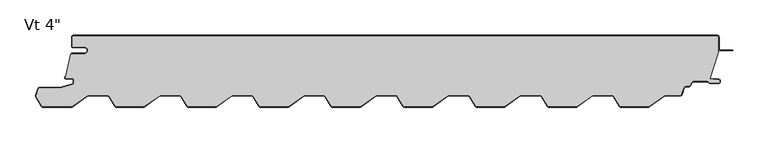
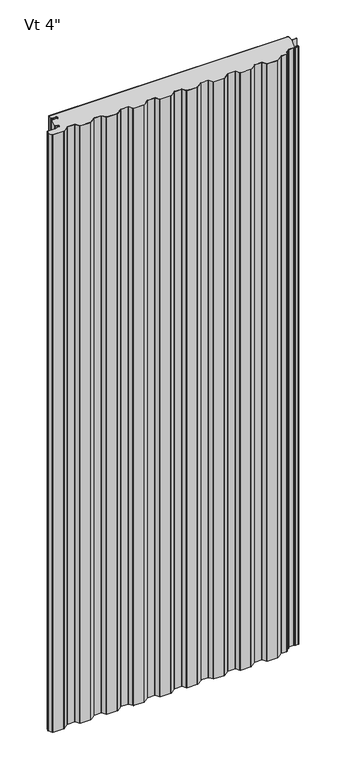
"""IFC4 building model written with IfcOpenShell, lengths in millimetres: plate geometry."""

from ifc_helpers import new_model, si_unit, point, frame_2d, origin, origin_with_axes, place, context, project, spatial, polyline, circle_curve, trimmed, segment, composite_curve, outline, extrude, source, transform, mapped, element, save


def plate_71bb4e5d(model_context):
    return source(origin(), model_context, "Body", "SweptSolid", [
        extrude(outline(composite_curve([segment(trimmed(circle_curve(frame_2d((454.386154, -65.1050509)), 2.3819944), [point((454.4697098, -62.7245224))], [point((456.7681484, -65.1050509))], False, "CARTESIAN"), True, "CONTINUOUS"), segment(trimmed(circle_curve(frame_2d((454.386154, -65.1050509)), 2.3819944), [point((456.7681484, -65.1050509))], [point((454.3711285, -67.4869979))], False, "CARTESIAN"), True, "CONTINUOUS"), segment(polyline([(454.3711285, -67.4869979), (443.4817205, -67.4869979)]), True, "CONTINUOUS"), segment(trimmed(circle_curve(frame_2d((443.4817205, -65.1050035)), 2.3819944), [point((443.4817205, -67.4869979))], [point((441.4482117, -66.3454628))], False, "CARTESIAN"), True, "CONTINUOUS"), segment(trimmed(circle_curve(frame_2d((438.7639801, -67.9828691)), 3.1442326), [point((441.4482117, -66.3454628))], [point((438.7639801, -64.8386365))], True, "CARTESIAN"), True, "CONTINUOUS"), segment(polyline([(438.7639801, -64.8386365), (419.8818929, -64.8386365)]), True, "CONTINUOUS"), segment(trimmed(circle_curve(frame_2d((419.8818929, -67.9828691)), 3.1442326), [point((419.8818929, -64.8386365))], [point((417.1272542, -66.4668994))], True, "CARTESIAN"), True, "CONTINUOUS"), segment(polyline([(417.1272542, -66.4668994), (414.8105341, -70.676566)]), True, "CONTINUOUS"), segment(trimmed(circle_curve(frame_2d((412.7236865, -69.5281042)), 2.3819944), [point((414.8105341, -70.676566))], [point((412.7236865, -71.9100985))], False, "CARTESIAN"), True, "CONTINUOUS"), segment(polyline([(412.7236865, -71.9100985), (409.0593718, -71.9100985)]), True, "CONTINUOUS"), segment(trimmed(circle_curve(frame_2d((409.0593718, -75.0543311)), 3.1442326), [point((409.0593718, -71.9100985))], [point((406.1047597, -73.9789402))], True, "CARTESIAN"), True, "CONTINUOUS"), segment(polyline([(406.1047597, -73.9789402), (402.692978, -83.3527332)]), True, "CONTINUOUS"), segment(trimmed(circle_curve(frame_2d((400.4546355, -82.5380431)), 2.3819944), [point((402.692978, -83.3527332))], [point((400.4546355, -84.9200375))], False, "CARTESIAN"), True, "CONTINUOUS"), segment(polyline([(400.4546355, -84.9200375), (379.6554059, -84.9200375)]), True, "CONTINUOUS"), segment(trimmed(circle_curve(frame_2d((379.6554059, -87.270272)), 2.3502344), [point((379.6554059, -84.9200375))], [point((378.2893598, -85.3578075))], True, "CARTESIAN"), True, "CONTINUOUS"), segment(polyline([(378.2893598, -85.3578075), (357.0843971, -100.5042095)]), True, "CONTINUOUS"), segment(trimmed(circle_curve(frame_2d((356.1613931, -99.2120038)), 1.5879962), [point((357.0843971, -100.5042095))], [point((356.1613931, -100.8))], False, "CARTESIAN"), True, "CONTINUOUS"), segment(polyline([(356.1613931, -100.8), (316.9573387, -100.8)]), True, "CONTINUOUS"), segment(trimmed(circle_curve(frame_2d((316.9573387, -99.2120038)), 1.5879962), [point((316.9573387, -100.8))], [point((315.5956432, -100.0290211))], False, "CARTESIAN"), True, "CONTINUOUS"), segment(polyline([(315.5956432, -100.0290211), (307.2148823, -86.0610863)]), True, "CONTINUOUS"), segment(trimmed(circle_curve(frame_2d((305.1995729, -87.270272)), 2.3502344), [point((307.2148823, -86.0610863))], [point((305.1995729, -84.9200375))], True, "CARTESIAN"), True, "CONTINUOUS"), segment(polyline([(305.1995729, -84.9200375), (278.0236459, -84.9200375)]), True, "CONTINUOUS"), segment(trimmed(circle_curve(frame_2d((278.0236459, -87.270272)), 2.3502344), [point((278.0236459, -84.9200375))], [point((276.6575999, -85.3578075))], True, "CARTESIAN"), True, "CONTINUOUS"), segment(polyline([(276.6575999, -85.3578075), (255.4526372, -100.5042095)]), True, "CONTINUOUS"), segment(trimmed(circle_curve(frame_2d((254.5296331, -99.2120038)), 1.5879962), [point((255.4526372, -100.5042095))], [point((254.5296331, -100.8))], False, "CARTESIAN"), True, "CONTINUOUS"), segment(polyline([(254.5296331, -100.8), (215.3255788, -100.8)]), True, "CONTINUOUS"), segment(trimmed(circle_curve(frame_2d((215.3255788, -99.2120038)), 1.5879962), [point((215.3255788, -100.8))], [point((213.9638833, -100.0290211))], False, "CARTESIAN"), True, "CONTINUOUS"), segment(polyline([(213.9638833, -100.0290211), (205.5831224, -86.0610863)]), True, "CONTINUOUS"), segment(trimmed(circle_curve(frame_2d((203.567813, -87.270272)), 2.3502344), [point((205.5831224, -86.0610863))], [point((203.567813, -84.9200375))], True, "CARTESIAN"), True, "CONTINUOUS"), segment(polyline([(203.567813, -84.9200375), (176.391886, -84.9200375)]), True, "CONTINUOUS"), segment(trimmed(circle_curve(frame_2d((176.391886, -87.270272)), 2.3502344), [point((176.391886, -84.9200375))], [point((175.02584, -85.3578075))], True, "CARTESIAN"), True, "CONTINUOUS"), segment(polyline([(175.02584, -85.3578075), (153.8208773, -100.5042095)]), True, "CONTINUOUS"), segment(trimmed(circle_curve(frame_2d((152.8978732, -99.2120038)), 1.5879962), [point((153.8208773, -100.5042095))], [point((152.8978732, -100.8))], False, "CARTESIAN"), True, "CONTINUOUS"), segment(polyline([(152.8978732, -100.8), (113.6938189, -100.8)]), True, "CONTINUOUS"), segment(trimmed(circle_curve(frame_2d((113.6938189, -99.2120038)), 1.5879962), [point((113.6938189, -100.8))], [point((112.3321233, -100.0290211))], False, "CARTESIAN"), True, "CONTINUOUS"), segment(polyline([(112.3321233, -100.0290211), (103.9513625, -86.0610863)]), True, "CONTINUOUS"), segment(trimmed(circle_curve(frame_2d((101.9360531, -87.270272)), 2.3502344), [point((103.9513625, -86.0610863))], [point((101.9360531, -84.9200375))], True, "CARTESIAN"), True, "CONTINUOUS"), segment(polyline([(101.9360531, -84.9200375), (74.7601261, -84.9200375)]), True, "CONTINUOUS"), segment(trimmed(circle_curve(frame_2d((74.7601261, -87.270272)), 2.3502344), [point((74.7601261, -84.9200375))], [point((73.3940801, -85.3578075))], True, "CARTESIAN"), True, "CONTINUOUS"), segment(polyline([(73.3940801, -85.3578075), (52.1891174, -100.5042095)]), True, "CONTINUOUS"), segment(trimmed(circle_curve(frame_2d((51.2661133, -99.2120038)), 1.5879962), [point((52.1891174, -100.5042095))], [point((51.2661133, -100.8))], False, "CARTESIAN"), True, "CONTINUOUS"), segment(polyline([(51.2661133, -100.8), (12.062059, -100.8)]), True, "CONTINUOUS"), segment(trimmed(circle_curve(frame_2d((12.062059, -99.2120038)), 1.5879962), [point((12.062059, -100.8))], [point((10.7003634, -100.0290211))], False, "CARTESIAN"), True, "CONTINUOUS"), segment(polyline([(10.7003634, -100.0290211), (2.3196026, -86.0610863)]), True, "CONTINUOUS"), segment(trimmed(circle_curve(frame_2d((0.3042931, -87.270272)), 2.3502344), [point((2.3196026, -86.0610863))], [point((0.3042931, -84.9200375))], True, "CARTESIAN"), True, "CONTINUOUS"), segment(polyline([(0.3042931, -84.9200375), (-26.8716338, -84.9200375)]), True, "CONTINUOUS"), segment(trimmed(circle_curve(frame_2d((-26.8716338, -87.270272)), 2.3502344), [point((-26.8716338, -84.9200375))], [point((-28.2376799, -85.3578075))], True, "CARTESIAN"), True, "CONTINUOUS"), segment(polyline([(-28.2376799, -85.3578075), (-49.4426426, -100.5042095)]), True, "CONTINUOUS"), segment(trimmed(circle_curve(frame_2d((-50.3656466, -99.2120038)), 1.5879962), [point((-49.4426426, -100.5042095))], [point((-50.3656466, -100.8))], False, "CARTESIAN"), True, "CONTINUOUS"), segment(polyline([(-50.3656466, -100.8), (-89.569701, -100.8)]), True, "CONTINUOUS"), segment(trimmed(circle_curve(frame_2d((-89.569701, -99.2120038)), 1.5879962), [point((-89.569701, -100.8))], [point((-90.9313965, -100.0290211))], False, "CARTESIAN"), True, "CONTINUOUS"), segment(polyline([(-90.9313965, -100.0290211), (-99.3121574, -86.0610863)]), True, "CONTINUOUS"), segment(trimmed(circle_curve(frame_2d((-101.3274668, -87.270272)), 2.3502344), [point((-99.3121574, -86.0610863))], [point((-101.3274668, -84.9200375))], True, "CARTESIAN"), True, "CONTINUOUS"), segment(polyline([(-101.3274668, -84.9200375), (-128.5033938, -84.9200375)]), True, "CONTINUOUS"), segment(trimmed(circle_curve(frame_2d((-128.5033938, -87.270272)), 2.3502344), [point((-128.5033938, -84.9200375))], [point((-129.8694398, -85.3578075))], True, "CARTESIAN"), True, "CONTINUOUS"), segment(polyline([(-129.8694398, -85.3578075), (-151.0744025, -100.5042095)]), True, "CONTINUOUS"), segment(trimmed(circle_curve(frame_2d((-151.9974066, -99.2120038)), 1.5879962), [point((-151.0744025, -100.5042095))], [point((-151.9974066, -100.8))], False, "CARTESIAN"), True, "CONTINUOUS"), segment(polyline([(-151.9974066, -100.8), (-191.2014609, -100.8)]), True, "CONTINUOUS"), segment(trimmed(circle_curve(frame_2d((-191.2014609, -99.2120038)), 1.5879962), [point((-191.2014609, -100.8))], [point((-192.5631564, -100.0290211))], False, "CARTESIAN"), True, "CONTINUOUS"), segment(polyline([(-192.5631564, -100.0290211), (-200.9439173, -86.0610863)]), True, "CONTINUOUS"), segment(trimmed(circle_curve(frame_2d((-202.9592267, -87.270272)), 2.3502344), [point((-200.9439173, -86.0610863))], [point((-202.9592267, -84.9200375))], True, "CARTESIAN"), True, "CONTINUOUS"), segment(polyline([(-202.9592267, -84.9200375), (-230.1351537, -84.9200375)]), True, "CONTINUOUS"), segment(trimmed(circle_curve(frame_2d((-230.1351537, -87.270272)), 2.3502344), [point((-230.1351537, -84.9200375))], [point((-231.5011997, -85.3578075))], True, "CARTESIAN"), True, "CONTINUOUS"), segment(polyline([(-231.5011997, -85.3578075), (-252.7061624, -100.5042095)]), True, "CONTINUOUS"), segment(trimmed(circle_curve(frame_2d((-253.6291665, -99.2120038)), 1.5879962), [point((-252.7061624, -100.5042095))], [point((-253.6291665, -100.8))], False, "CARTESIAN"), True, "CONTINUOUS"), segment(polyline([(-253.6291665, -100.8), (-292.8332208, -100.8)]), True, "CONTINUOUS"), segment(trimmed(circle_curve(frame_2d((-292.8332208, -99.2120038)), 1.5879962), [point((-292.8332208, -100.8))], [point((-294.1949164, -100.0290211))], False, "CARTESIAN"), True, "CONTINUOUS"), segment(polyline([(-294.1949164, -100.0290211), (-302.5756772, -86.0610863)]), True, "CONTINUOUS"), segment(trimmed(circle_curve(frame_2d((-304.5909866, -87.270272)), 2.3502344), [point((-302.5756772, -86.0610863))], [point((-304.5909866, -84.9200375))], True, "CARTESIAN"), True, "CONTINUOUS"), segment(polyline([(-304.5909866, -84.9200375), (-331.7669136, -84.9200375)]), True, "CONTINUOUS"), segment(trimmed(circle_curve(frame_2d((-331.7669136, -87.270272)), 2.3502344), [point((-331.7669136, -84.9200375))], [point((-333.1329596, -85.3578075))], True, "CARTESIAN"), True, "CONTINUOUS"), segment(polyline([(-333.1329596, -85.3578075), (-354.3379223, -100.5042095)]), True, "CONTINUOUS"), segment(trimmed(circle_curve(frame_2d((-355.2609264, -99.2120038)), 1.5879962), [point((-354.3379223, -100.5042095))], [point((-355.2609264, -100.8))], False, "CARTESIAN"), True, "CONTINUOUS"), segment(polyline([(-355.2609264, -100.8), (-394.4649807, -100.8)]), True, "CONTINUOUS"), segment(trimmed(circle_curve(frame_2d((-394.4649807, -99.2120038)), 1.5879962), [point((-394.4649807, -100.8))], [point((-395.8266763, -100.0290211))], False, "CARTESIAN"), True, "CONTINUOUS"), segment(polyline([(-395.8266763, -100.0290211), (-404.2074371, -86.0610863)]), True, "CONTINUOUS"), segment(trimmed(circle_curve(frame_2d((-406.2227466, -87.270272)), 2.3502344), [point((-404.2074371, -86.0610863))], [point((-406.2227466, -84.9200375))], True, "CARTESIAN"), True, "CONTINUOUS"), segment(polyline([(-406.2227466, -84.9200375), (-433.3986735, -84.9200375)]), True, "CONTINUOUS"), segment(trimmed(circle_curve(frame_2d((-433.3986735, -87.270272)), 2.3502344), [point((-433.3986735, -84.9200375))], [point((-434.7647196, -85.3578075))], True, "CARTESIAN"), True, "CONTINUOUS"), segment(polyline([(-434.7647196, -85.3578075), (-455.9696823, -100.5042095)]), True, "CONTINUOUS"), segment(trimmed(circle_curve(frame_2d((-456.8926863, -99.2120038)), 1.5879962), [point((-455.9696823, -100.5042095))], [point((-456.8926863, -100.8))], False, "CARTESIAN"), True, "CONTINUOUS"), segment(polyline([(-456.8926863, -100.8), (-497.6512342, -100.8)]), True, "CONTINUOUS"), segment(trimmed(circle_curve(frame_2d((-497.6512342, -99.2120038)), 1.5879962), [point((-497.6512342, -100.8))], [point((-499.0129298, -100.0290211))], False, "CARTESIAN"), True, "CONTINUOUS"), segment(polyline([(-499.0129298, -100.0290211), (-506.8856614, -86.9078017)]), True, "CONTINUOUS"), segment(trimmed(circle_curve(frame_2d((-504.8431181, -85.6822757)), 2.3819944), [point((-506.8856614, -86.9078017))], [point((-507.0814606, -84.8675857))], False, "CARTESIAN"), True, "CONTINUOUS"), segment(polyline([(-507.0814606, -84.8675857), (-503.8568323, -76.0079921)]), True, "CONTINUOUS"), segment(trimmed(circle_curve(frame_2d((-501.6184897, -76.8226821)), 2.3819944), [point((-503.8568323, -76.0079921))], [point((-501.6184897, -74.4406877))], False, "CARTESIAN"), True, "CONTINUOUS"), segment(polyline([(-501.6184897, -74.4406877), (-474.4333743, -74.4406877)]), True, "CONTINUOUS"), segment(trimmed(circle_curve(frame_2d((-474.4333743, -71.2964552)), 3.1442326), [point((-474.4333743, -74.4406877))], [point((-473.6083609, -74.3305203))], True, "CARTESIAN"), True, "CONTINUOUS"), segment(polyline([(-473.6083609, -74.3305203), (-456.1290442, -69.5775993)]), True, "CONTINUOUS"), segment(trimmed(circle_curve(frame_2d((-456.9540576, -66.5435342)), 3.1442326), [point((-456.1290442, -69.5775993))], [point((-453.8098251, -66.5435342))], True, "CARTESIAN"), True, "CONTINUOUS"), segment(polyline([(-453.8098251, -66.5435342), (-453.8098251, -63.8816786)]), True, "CONTINUOUS"), segment(trimmed(circle_curve(frame_2d((-456.9540576, -63.8816786)), 3.1442326), [point((-453.8098251, -63.8816786))], [point((-456.9540576, -60.7374461))], True, "CARTESIAN"), True, "CONTINUOUS"), segment(polyline([(-456.9540576, -60.7374461), (-465.0810819, -60.7374461)]), True, "CONTINUOUS"), segment(trimmed(circle_curve(frame_2d((-465.0810819, -59.9434479)), 0.7939981), [point((-465.0810819, -60.7374461))], [point((-465.6425234, -59.3820065))], False, "CARTESIAN"), True, "CONTINUOUS"), segment(polyline([(-465.6425234, -59.3820065), (-465.0420194, -58.7815025), (-465.6056498, -58.2178722), (-458.6125706, -26.2098781), (-438.9380431, -26.2098781)]), True, "CONTINUOUS"), segment(trimmed(circle_curve(frame_2d((-438.9380431, -21.4458893)), 4.7639887), [point((-438.9380431, -26.2098781))], [point((-438.9380431, -16.6819006))], True, "CARTESIAN"), True, "CONTINUOUS"), segment(polyline([(-438.9380431, -16.6819006), (-454.8180056, -16.6819006)]), True, "CONTINUOUS"), segment(trimmed(circle_curve(frame_2d((-454.8180056, -15.0939043)), 1.5879962), [point((-454.8180056, -16.6819006))], [point((-456.4060019, -15.0939043))], False, "CARTESIAN"), True, "CONTINUOUS"), segment(polyline([(-456.4060019, -15.0939043), (-456.4060019, -2.3899344)]), True, "CONTINUOUS"), segment(trimmed(circle_curve(frame_2d((-454.8180056, -2.3899344)), 1.5879962), [point((-456.4060019, -2.3899344))], [point((-454.8180056, -0.8019381))], False, "CARTESIAN"), True, "CONTINUOUS"), segment(polyline([(-454.8180056, -0.8019381), (453.2017685, -0.8019381)]), True, "CONTINUOUS"), segment(trimmed(circle_curve(frame_2d((453.2017685, -2.3899344)), 1.5879962), [point((453.2017685, -0.8019381))], [point((454.7897647, -2.3899344))], False, "CARTESIAN"), True, "CONTINUOUS"), segment(polyline([(454.7897647, -2.3899344), (454.7897647, -24.2899344), (442.3000396, -61.4968783), (446.4274498, -61.6417491), (446.3993873, -62.4412567), (454.4697098, -62.7245224)]), True, "CONTINUOUS")], self_intersect=False)), origin_with_axes(), (0.0, 0.0, 1.0), 2400.0),
        extrude(outline(composite_curve([segment(trimmed(circle_curve(frame_2d((457.1717591, -19.452954)), 2.3819944), [point((457.1717591, -21.8349484))], [point((454.7897647, -19.452954))], False, "CARTESIAN"), True, "CONTINUOUS"), segment(polyline([(454.7897647, -19.452954), (454.7897647, -2.3819944)]), True, "CONTINUOUS"), segment(trimmed(circle_curve(frame_2d((453.2017685, -2.3819944)), 1.5879962), [point((454.7897647, -2.3819944))], [point((453.2017685, -0.7939981))], True, "CARTESIAN"), True, "CONTINUOUS"), segment(polyline([(453.2017685, -0.7939981), (-454.8180056, -0.7939981)]), True, "CONTINUOUS"), segment(trimmed(circle_curve(frame_2d((-454.8180056, -2.3819944)), 1.5879962), [point((-454.8180056, -0.7939981))], [point((-456.4060019, -2.3819944))], True, "CARTESIAN"), True, "CONTINUOUS"), segment(polyline([(-456.4060019, -2.3819944), (-456.4060019, -15.0859644)]), True, "CONTINUOUS"), segment(trimmed(circle_curve(frame_2d((-454.8180056, -15.0859644)), 1.5879962), [point((-456.4060019, -15.0859644))], [point((-454.8180056, -16.6739606))], True, "CARTESIAN"), True, "CONTINUOUS"), segment(polyline([(-454.8180056, -16.6739606), (-438.9380431, -16.6739606)]), True, "CONTINUOUS"), segment(trimmed(circle_curve(frame_2d((-438.9380431, -21.4379494)), 4.7639887), [point((-438.9380431, -16.6739606))], [point((-438.9380431, -26.2019381))], False, "CARTESIAN"), True, "CONTINUOUS"), segment(polyline([(-438.9380431, -26.2019381), (-457.2, -26.2019381), (-457.2, -25.40794), (-438.9380431, -25.40794)]), True, "CONTINUOUS"), segment(trimmed(circle_curve(frame_2d((-438.9380431, -21.4379494)), 3.9699906), [point((-438.9380431, -25.40794))], [point((-438.9380431, -17.4679587))], True, "CARTESIAN"), True, "CONTINUOUS"), segment(polyline([(-438.9380431, -17.4679587), (-454.8180056, -17.4679587)]), True, "CONTINUOUS"), segment(trimmed(circle_curve(frame_2d((-454.8180056, -15.0859644)), 2.3819944), [point((-454.8180056, -17.4679587))], [point((-457.2, -15.0859644))], False, "CARTESIAN"), True, "CONTINUOUS"), segment(polyline([(-457.2, -15.0859644), (-457.2, -2.3819944)]), True, "CONTINUOUS"), segment(trimmed(circle_curve(frame_2d((-454.8180056, -2.3819944)), 2.3819944), [point((-457.2, -2.3819944))], [point((-454.8180056, 0.0))], False, "CARTESIAN"), True, "CONTINUOUS"), segment(polyline([(-454.8180056, 0.0), (453.2017685, 0.0)]), True, "CONTINUOUS"), segment(trimmed(circle_curve(frame_2d((453.2017685, -2.3819944)), 2.3819944), [point((453.2017685, 0.0))], [point((455.5837628, -2.3819944))], False, "CARTESIAN"), True, "CONTINUOUS"), segment(polyline([(455.5837628, -2.3819944), (455.5837628, -19.452954)]), True, "CONTINUOUS"), segment(trimmed(circle_curve(frame_2d((457.1717591, -19.452954)), 1.5879962), [point((455.5837628, -19.452954))], [point((457.1717591, -21.0409503))], True, "CARTESIAN"), True, "CONTINUOUS"), segment(polyline([(457.1717591, -21.0409503), (474.6397178, -21.0409503), (474.6397178, -21.8349484), (457.1717591, -21.8349484)]), True, "CONTINUOUS")], self_intersect=False)), origin_with_axes(), (0.0, 0.0, 1.0), 2400.0),
        extrude(outline(composite_curve([segment(polyline([(454.4697098, -62.7245224), (446.3993873, -62.4412567), (446.4274498, -61.6417491), (454.4977723, -61.9250148)]), True, "CONTINUOUS"), segment(trimmed(circle_curve(frame_2d((454.386154, -65.1050509)), 3.1819944), [point((454.4977723, -61.9250148))], [point((457.5681484, -65.1050509))], False, "CARTESIAN"), True, "CONTINUOUS"), segment(trimmed(circle_curve(frame_2d((454.386154, -65.1050509)), 3.1819944), [point((457.5681484, -65.1050509))], [point((454.3687877, -68.2869979))], False, "CARTESIAN"), True, "CONTINUOUS"), segment(polyline([(454.3687877, -68.2869979), (443.4817205, -68.2869979)]), True, "CONTINUOUS"), segment(trimmed(circle_curve(frame_2d((443.4817205, -65.1050035)), 3.1819944), [point((443.4817205, -68.2869979))], [point((440.7652516, -66.7620748))], False, "CARTESIAN"), True, "CONTINUOUS"), segment(trimmed(circle_curve(frame_2d((438.7639801, -67.9828691)), 2.3442326), [point((440.7652516, -66.7620748))], [point((438.7639801, -65.6386365))], True, "CARTESIAN"), True, "CONTINUOUS"), segment(polyline([(438.7639801, -65.6386365), (419.8818929, -65.6386365)]), True, "CONTINUOUS"), segment(trimmed(circle_curve(frame_2d((419.8818929, -67.9828691)), 2.3442326), [point((419.8818929, -65.6386365))], [point((417.8281282, -66.8526138))], True, "CARTESIAN"), True, "CONTINUOUS"), segment(polyline([(417.8281282, -66.8526138), (415.5114081, -71.0622804)]), True, "CONTINUOUS"), segment(trimmed(circle_curve(frame_2d((412.7236865, -69.5281042)), 3.1819944), [point((415.5114081, -71.0622804))], [point((412.7236865, -72.7100985))], False, "CARTESIAN"), True, "CONTINUOUS"), segment(polyline([(412.7236865, -72.7100985), (409.0593718, -72.7100985)]), True, "CONTINUOUS"), segment(trimmed(circle_curve(frame_2d((409.0593718, -75.0543311)), 2.3442326), [point((409.0593718, -72.7100985))], [point((406.8565137, -74.2525564))], True, "CARTESIAN"), True, "CONTINUOUS"), segment(polyline([(406.8565137, -74.2525564), (403.4447321, -83.6263493)]), True, "CONTINUOUS"), segment(trimmed(circle_curve(frame_2d((400.4546355, -82.5380431)), 3.1819944), [point((403.4447321, -83.6263493))], [point((400.4546355, -85.7200375))], False, "CARTESIAN"), True, "CONTINUOUS"), segment(polyline([(400.4546355, -85.7200375), (379.6554059, -85.7200375)]), True, "CONTINUOUS"), segment(trimmed(circle_curve(frame_2d((379.6554059, -87.270272)), 1.5502344), [point((379.6554059, -85.7200375))], [point((378.7543504, -86.0087943))], True, "CARTESIAN"), True, "CONTINUOUS"), segment(polyline([(378.7543504, -86.0087943), (357.5493877, -101.1551962)]), True, "CONTINUOUS"), segment(trimmed(circle_curve(frame_2d((356.1613931, -99.2120038)), 2.3879962), [point((357.5493877, -101.1551962))], [point((356.1613931, -101.6))], False, "CARTESIAN"), True, "CONTINUOUS"), segment(polyline([(356.1613931, -101.6), (316.9573387, -101.6)]), True, "CONTINUOUS"), segment(trimmed(circle_curve(frame_2d((316.9573387, -99.2120038)), 2.3879962), [point((316.9573387, -101.6))], [point((314.9096489, -100.4406177))], False, "CARTESIAN"), True, "CONTINUOUS"), segment(polyline([(314.9096489, -100.4406177), (306.528888, -86.4726829)]), True, "CONTINUOUS"), segment(trimmed(circle_curve(frame_2d((305.1995729, -87.270272)), 1.5502344), [point((306.528888, -86.4726829))], [point((305.1995729, -85.7200375))], True, "CARTESIAN"), True, "CONTINUOUS"), segment(polyline([(305.1995729, -85.7200375), (278.0236459, -85.7200375)]), True, "CONTINUOUS"), segment(trimmed(circle_curve(frame_2d((278.0236459, -87.270272)), 1.5502344), [point((278.0236459, -85.7200375))], [point((277.1225905, -86.0087943))], True, "CARTESIAN"), True, "CONTINUOUS"), segment(polyline([(277.1225905, -86.0087943), (255.9176278, -101.1551962)]), True, "CONTINUOUS"), segment(trimmed(circle_curve(frame_2d((254.5296331, -99.2120038)), 2.3879962), [point((255.9176278, -101.1551962))], [point((254.5296331, -101.6))], False, "CARTESIAN"), True, "CONTINUOUS"), segment(polyline([(254.5296331, -101.6), (215.3255788, -101.6)]), True, "CONTINUOUS"), segment(trimmed(circle_curve(frame_2d((215.3255788, -99.2120038)), 2.3879962), [point((215.3255788, -101.6))], [point((213.2778889, -100.4406177))], False, "CARTESIAN"), True, "CONTINUOUS"), segment(polyline([(213.2778889, -100.4406177), (204.8971281, -86.4726829)]), True, "CONTINUOUS"), segment(trimmed(circle_curve(frame_2d((203.567813, -87.270272)), 1.5502344), [point((204.8971281, -86.4726829))], [point((203.567813, -85.7200375))], True, "CARTESIAN"), True, "CONTINUOUS"), segment(polyline([(203.567813, -85.7200375), (176.391886, -85.7200375)]), True, "CONTINUOUS"), segment(trimmed(circle_curve(frame_2d((176.391886, -87.270272)), 1.5502344), [point((176.391886, -85.7200375))], [point((175.4908305, -86.0087943))], True, "CARTESIAN"), True, "CONTINUOUS"), segment(polyline([(175.4908305, -86.0087943), (154.2858678, -101.1551962)]), True, "CONTINUOUS"), segment(trimmed(circle_curve(frame_2d((152.8978732, -99.2120038)), 2.3879962), [point((154.2858678, -101.1551962))], [point((152.8978732, -101.6))], False, "CARTESIAN"), True, "CONTINUOUS"), segment(polyline([(152.8978732, -101.6), (113.6938189, -101.6)]), True, "CONTINUOUS"), segment(trimmed(circle_curve(frame_2d((113.6938189, -99.2120038)), 2.3879962), [point((113.6938189, -101.6))], [point((111.646129, -100.4406177))], False, "CARTESIAN"), True, "CONTINUOUS"), segment(polyline([(111.646129, -100.4406177), (103.2653681, -86.4726829)]), True, "CONTINUOUS"), segment(trimmed(circle_curve(frame_2d((101.9360531, -87.270272)), 1.5502344), [point((103.2653681, -86.4726829))], [point((101.9360531, -85.7200375))], True, "CARTESIAN"), True, "CONTINUOUS"), segment(polyline([(101.9360531, -85.7200375), (74.7601261, -85.7200375)]), True, "CONTINUOUS"), segment(trimmed(circle_curve(frame_2d((74.7601261, -87.270272)), 1.5502344), [point((74.7601261, -85.7200375))], [point((73.8590706, -86.0087943))], True, "CARTESIAN"), True, "CONTINUOUS"), segment(polyline([(73.8590706, -86.0087943), (52.6541079, -101.1551962)]), True, "CONTINUOUS"), segment(trimmed(circle_curve(frame_2d((51.2661133, -99.2120038)), 2.3879962), [point((52.6541079, -101.1551962))], [point((51.2661133, -101.6))], False, "CARTESIAN"), True, "CONTINUOUS"), segment(polyline([(51.2661133, -101.6), (12.062059, -101.6)]), True, "CONTINUOUS"), segment(trimmed(circle_curve(frame_2d((12.062059, -99.2120038)), 2.3879962), [point((12.062059, -101.6))], [point((10.0143691, -100.4406177))], False, "CARTESIAN"), True, "CONTINUOUS"), segment(polyline([(10.0143691, -100.4406177), (1.6336082, -86.4726829)]), True, "CONTINUOUS"), segment(trimmed(circle_curve(frame_2d((0.3042931, -87.270272)), 1.5502344), [point((1.6336082, -86.4726829))], [point((0.3042931, -85.7200375))], True, "CARTESIAN"), True, "CONTINUOUS"), segment(polyline([(0.3042931, -85.7200375), (-26.8716338, -85.7200375)]), True, "CONTINUOUS"), segment(trimmed(circle_curve(frame_2d((-26.8716338, -87.270272)), 1.5502344), [point((-26.8716338, -85.7200375))], [point((-27.7726893, -86.0087943))], True, "CARTESIAN"), True, "CONTINUOUS"), segment(polyline([(-27.7726893, -86.0087943), (-48.977652, -101.1551962)]), True, "CONTINUOUS"), segment(trimmed(circle_curve(frame_2d((-50.3656466, -99.2120038)), 2.3879962), [point((-48.977652, -101.1551962))], [point((-50.3656466, -101.6))], False, "CARTESIAN"), True, "CONTINUOUS"), segment(polyline([(-50.3656466, -101.6), (-89.569701, -101.6)]), True, "CONTINUOUS"), segment(trimmed(circle_curve(frame_2d((-89.569701, -99.2120038)), 2.3879962), [point((-89.569701, -101.6))], [point((-91.6173908, -100.4406177))], False, "CARTESIAN"), True, "CONTINUOUS"), segment(polyline([(-91.6173908, -100.4406177), (-99.9981517, -86.4726829)]), True, "CONTINUOUS"), segment(trimmed(circle_curve(frame_2d((-101.3274668, -87.270272)), 1.5502344), [point((-99.9981517, -86.4726829))], [point((-101.3274668, -85.7200375))], True, "CARTESIAN"), True, "CONTINUOUS"), segment(polyline([(-101.3274668, -85.7200375), (-128.5033938, -85.7200375)]), True, "CONTINUOUS"), segment(trimmed(circle_curve(frame_2d((-128.5033938, -87.270272)), 1.5502344), [point((-128.5033938, -85.7200375))], [point((-129.4044492, -86.0087943))], True, "CARTESIAN"), True, "CONTINUOUS"), segment(polyline([(-129.4044492, -86.0087943), (-150.6094119, -101.1551962)]), True, "CONTINUOUS"), segment(trimmed(circle_curve(frame_2d((-151.9974066, -99.2120038)), 2.3879962), [point((-150.6094119, -101.1551962))], [point((-151.9974066, -101.6))], False, "CARTESIAN"), True, "CONTINUOUS"), segment(polyline([(-151.9974066, -101.6), (-191.2014609, -101.6)]), True, "CONTINUOUS"), segment(trimmed(circle_curve(frame_2d((-191.2014609, -99.2120038)), 2.3879962), [point((-191.2014609, -101.6))], [point((-193.2491508, -100.4406177))], False, "CARTESIAN"), True, "CONTINUOUS"), segment(polyline([(-193.2491508, -100.4406177), (-201.6299116, -86.4726829)]), True, "CONTINUOUS"), segment(trimmed(circle_curve(frame_2d((-202.9592267, -87.270272)), 1.5502344), [point((-201.6299116, -86.4726829))], [point((-202.9592267, -85.7200375))], True, "CARTESIAN"), True, "CONTINUOUS"), segment(polyline([(-202.9592267, -85.7200375), (-230.1351537, -85.7200375)]), True, "CONTINUOUS"), segment(trimmed(circle_curve(frame_2d((-230.1351537, -87.270272)), 1.5502344), [point((-230.1351537, -85.7200375))], [point((-231.0362092, -86.0087943))], True, "CARTESIAN"), True, "CONTINUOUS"), segment(polyline([(-231.0362092, -86.0087943), (-252.2411719, -101.1551962)]), True, "CONTINUOUS"), segment(trimmed(circle_curve(frame_2d((-253.6291665, -99.2120038)), 2.3879962), [point((-252.2411719, -101.1551962))], [point((-253.6291665, -101.6))], False, "CARTESIAN"), True, "CONTINUOUS"), segment(polyline([(-253.6291665, -101.6), (-292.8332208, -101.6)]), True, "CONTINUOUS"), segment(trimmed(circle_curve(frame_2d((-292.8332208, -99.2120038)), 2.3879962), [point((-292.8332208, -101.6))], [point((-294.8809107, -100.4406177))], False, "CARTESIAN"), True, "CONTINUOUS"), segment(polyline([(-294.8809107, -100.4406177), (-303.2616716, -86.4726829)]), True, "CONTINUOUS"), segment(trimmed(circle_curve(frame_2d((-304.5909866, -87.270272)), 1.5502344), [point((-303.2616716, -86.4726829))], [point((-304.5909866, -85.7200375))], True, "CARTESIAN"), True, "CONTINUOUS"), segment(polyline([(-304.5909866, -85.7200375), (-331.7669136, -85.7200375)]), True, "CONTINUOUS"), segment(trimmed(circle_curve(frame_2d((-331.7669136, -87.270272)), 1.5502344), [point((-331.7669136, -85.7200375))], [point((-332.6679691, -86.0087943))], True, "CARTESIAN"), True, "CONTINUOUS"), segment(polyline([(-332.6679691, -86.0087943), (-353.8729318, -101.1551962)]), True, "CONTINUOUS"), segment(trimmed(circle_curve(frame_2d((-355.2609264, -99.2120038)), 2.3879962), [point((-353.8729318, -101.1551962))], [point((-355.2609264, -101.6))], False, "CARTESIAN"), True, "CONTINUOUS"), segment(polyline([(-355.2609264, -101.6), (-394.4649807, -101.6)]), True, "CONTINUOUS"), segment(trimmed(circle_curve(frame_2d((-394.4649807, -99.2120038)), 2.3879962), [point((-394.4649807, -101.6))], [point((-396.5126706, -100.4406177))], False, "CARTESIAN"), True, "CONTINUOUS"), segment(polyline([(-396.5126706, -100.4406177), (-404.8934315, -86.4726829)]), True, "CONTINUOUS"), segment(trimmed(circle_curve(frame_2d((-406.2227466, -87.270272)), 1.5502344), [point((-404.8934315, -86.4726829))], [point((-406.2227466, -85.7200375))], True, "CARTESIAN"), True, "CONTINUOUS"), segment(polyline([(-406.2227466, -85.7200375), (-433.3986735, -85.7200375)]), True, "CONTINUOUS"), segment(trimmed(circle_curve(frame_2d((-433.3986735, -87.270272)), 1.5502344), [point((-433.3986735, -85.7200375))], [point((-434.299729, -86.0087943))], True, "CARTESIAN"), True, "CONTINUOUS"), segment(polyline([(-434.299729, -86.0087943), (-455.5046917, -101.1551962)]), True, "CONTINUOUS"), segment(trimmed(circle_curve(frame_2d((-456.8926863, -99.2120038)), 2.3879962), [point((-455.5046917, -101.1551962))], [point((-456.8926863, -101.6))], False, "CARTESIAN"), True, "CONTINUOUS"), segment(polyline([(-456.8926863, -101.6), (-497.6512342, -101.6)]), True, "CONTINUOUS"), segment(trimmed(circle_curve(frame_2d((-497.6512342, -99.2120038)), 2.3879962), [point((-497.6512342, -101.6))], [point((-499.6989241, -100.4406177))], False, "CARTESIAN"), True, "CONTINUOUS"), segment(polyline([(-499.6989241, -100.4406177), (-507.5716558, -87.3193983)]), True, "CONTINUOUS"), segment(trimmed(circle_curve(frame_2d((-504.8431181, -85.6822757)), 3.1819944), [point((-507.5716558, -87.3193983))], [point((-507.8332147, -84.5939695))], False, "CARTESIAN"), True, "CONTINUOUS"), segment(polyline([(-507.8332147, -84.5939695), (-504.6085864, -75.7343759)]), True, "CONTINUOUS"), segment(trimmed(circle_curve(frame_2d((-501.6184897, -76.8226821)), 3.1819944), [point((-504.6085864, -75.7343759))], [point((-501.6184897, -73.6406877))], False, "CARTESIAN"), True, "CONTINUOUS"), segment(polyline([(-501.6184897, -73.6406877), (-474.1203393, -73.6406877), (-456.3389557, -68.8056297)]), True, "CONTINUOUS"), segment(trimmed(circle_curve(frame_2d((-456.9540576, -66.5435342)), 2.3442326), [point((-456.3389557, -68.8056297))], [point((-454.6098251, -66.5435342))], True, "CARTESIAN"), True, "CONTINUOUS"), segment(polyline([(-454.6098251, -66.5435342), (-454.6098251, -63.8816786)]), True, "CONTINUOUS"), segment(trimmed(circle_curve(frame_2d((-456.9540576, -63.8816786)), 2.3442326), [point((-454.6098251, -63.8816786))], [point((-456.9540576, -61.5374461))], True, "CARTESIAN"), True, "CONTINUOUS"), segment(polyline([(-456.9540576, -61.5374461), (-465.1201444, -61.5374461)]), True, "CONTINUOUS"), segment(trimmed(circle_curve(frame_2d((-465.1201444, -59.9434479)), 1.5939981), [point((-465.1201444, -61.5374461))], [point((-466.2472713, -58.8163211))], False, "CARTESIAN"), True, "CONTINUOUS"), segment(polyline([(-466.2472713, -58.8163211), (-465.6858299, -58.2548796), (-465.1201444, -58.820565), (-465.6815859, -59.3820065)]), True, "CONTINUOUS"), segment(trimmed(circle_curve(frame_2d((-465.1201444, -59.9434479)), 0.7939981), [point((-465.6815859, -59.3820065))], [point((-465.1201444, -60.7374461))], True, "CARTESIAN"), True, "CONTINUOUS"), segment(polyline([(-465.1201444, -60.7374461), (-456.9540576, -60.7374461)]), True, "CONTINUOUS"), segment(trimmed(circle_curve(frame_2d((-456.9540576, -63.8816786)), 3.1442326), [point((-456.9540576, -60.7374461))], [point((-453.8098251, -63.8816786))], False, "CARTESIAN"), True, "CONTINUOUS"), segment(polyline([(-453.8098251, -63.8816786), (-453.8098251, -66.5435342)]), True, "CONTINUOUS"), segment(trimmed(circle_curve(frame_2d((-456.9540576, -66.5435342)), 3.1442326), [point((-453.8098251, -66.5435342))], [point((-456.1290442, -69.5775993))], False, "CARTESIAN"), True, "CONTINUOUS"), segment(polyline([(-456.1290442, -69.5775993), (-473.6083609, -74.3305203)]), True, "CONTINUOUS"), segment(trimmed(circle_curve(frame_2d((-474.4333743, -71.2964552)), 3.1442326), [point((-473.6083609, -74.3305203))], [point((-474.4333743, -74.4406877))], False, "CARTESIAN"), True, "CONTINUOUS"), segment(polyline([(-474.4333743, -74.4406877), (-501.6184897, -74.4406877)]), True, "CONTINUOUS"), segment(trimmed(circle_curve(frame_2d((-501.6184897, -76.8226821)), 2.3819944), [point((-501.6184897, -74.4406877))], [point((-503.8568323, -76.0079921))], True, "CARTESIAN"), True, "CONTINUOUS"), segment(polyline([(-503.8568323, -76.0079921), (-507.0814606, -84.8675857)]), True, "CONTINUOUS"), segment(trimmed(circle_curve(frame_2d((-504.8431181, -85.6822757)), 2.3819944), [point((-507.0814606, -84.8675857))], [point((-506.8856614, -86.9078017))], True, "CARTESIAN"), True, "CONTINUOUS"), segment(polyline([(-506.8856614, -86.9078017), (-499.0129298, -100.0290211)]), True, "CONTINUOUS"), segment(trimmed(circle_curve(frame_2d((-497.6512342, -99.2120038)), 1.5879962), [point((-499.0129298, -100.0290211))], [point((-497.6512342, -100.8))], True, "CARTESIAN"), True, "CONTINUOUS"), segment(polyline([(-497.6512342, -100.8), (-456.8926863, -100.8)]), True, "CONTINUOUS"), segment(trimmed(circle_curve(frame_2d((-456.8926863, -99.2120038)), 1.5879962), [point((-456.8926863, -100.8))], [point((-455.9696823, -100.5042095))], True, "CARTESIAN"), True, "CONTINUOUS"), segment(polyline([(-455.9696823, -100.5042095), (-434.7647196, -85.3578075)]), True, "CONTINUOUS"), segment(trimmed(circle_curve(frame_2d((-433.3986735, -87.270272)), 2.3502344), [point((-434.7647196, -85.3578075))], [point((-433.3986735, -84.9200375))], False, "CARTESIAN"), True, "CONTINUOUS"), segment(polyline([(-433.3986735, -84.9200375), (-406.2227466, -84.9200375)]), True, "CONTINUOUS"), segment(trimmed(circle_curve(frame_2d((-406.2227466, -87.270272)), 2.3502344), [point((-406.2227466, -84.9200375))], [point((-404.2074371, -86.0610863))], False, "CARTESIAN"), True, "CONTINUOUS"), segment(polyline([(-404.2074371, -86.0610863), (-395.8266763, -100.0290211)]), True, "CONTINUOUS"), segment(trimmed(circle_curve(frame_2d((-394.4649807, -99.2120038)), 1.5879962), [point((-395.8266763, -100.0290211))], [point((-394.4649807, -100.8))], True, "CARTESIAN"), True, "CONTINUOUS"), segment(polyline([(-394.4649807, -100.8), (-355.2609264, -100.8)]), True, "CONTINUOUS"), segment(trimmed(circle_curve(frame_2d((-355.2609264, -99.2120038)), 1.5879962), [point((-355.2609264, -100.8))], [point((-354.3379223, -100.5042095))], True, "CARTESIAN"), True, "CONTINUOUS"), segment(polyline([(-354.3379223, -100.5042095), (-333.1329596, -85.3578075)]), True, "CONTINUOUS"), segment(trimmed(circle_curve(frame_2d((-331.7669136, -87.270272)), 2.3502344), [point((-333.1329596, -85.3578075))], [point((-331.7669136, -84.9200375))], False, "CARTESIAN"), True, "CONTINUOUS"), segment(polyline([(-331.7669136, -84.9200375), (-304.5909866, -84.9200375)]), True, "CONTINUOUS"), segment(trimmed(circle_curve(frame_2d((-304.5909866, -87.270272)), 2.3502344), [point((-304.5909866, -84.9200375))], [point((-302.5756772, -86.0610863))], False, "CARTESIAN"), True, "CONTINUOUS"), segment(polyline([(-302.5756772, -86.0610863), (-294.1949164, -100.0290211)]), True, "CONTINUOUS"), segment(trimmed(circle_curve(frame_2d((-292.8332208, -99.2120038)), 1.5879962), [point((-294.1949164, -100.0290211))], [point((-292.8332208, -100.8))], True, "CARTESIAN"), True, "CONTINUOUS"), segment(polyline([(-292.8332208, -100.8), (-253.6291665, -100.8)]), True, "CONTINUOUS"), segment(trimmed(circle_curve(frame_2d((-253.6291665, -99.2120038)), 1.5879962), [point((-253.6291665, -100.8))], [point((-252.7061624, -100.5042095))], True, "CARTESIAN"), True, "CONTINUOUS"), segment(polyline([(-252.7061624, -100.5042095), (-231.5011997, -85.3578075)]), True, "CONTINUOUS"), segment(trimmed(circle_curve(frame_2d((-230.1351537, -87.270272)), 2.3502344), [point((-231.5011997, -85.3578075))], [point((-230.1351537, -84.9200375))], False, "CARTESIAN"), True, "CONTINUOUS"), segment(polyline([(-230.1351537, -84.9200375), (-202.9592267, -84.9200375)]), True, "CONTINUOUS"), segment(trimmed(circle_curve(frame_2d((-202.9592267, -87.270272)), 2.3502344), [point((-202.9592267, -84.9200375))], [point((-200.9439173, -86.0610863))], False, "CARTESIAN"), True, "CONTINUOUS"), segment(polyline([(-200.9439173, -86.0610863), (-192.5631564, -100.0290211)]), True, "CONTINUOUS"), segment(trimmed(circle_curve(frame_2d((-191.2014609, -99.2120038)), 1.5879962), [point((-192.5631564, -100.0290211))], [point((-191.2014609, -100.8))], True, "CARTESIAN"), True, "CONTINUOUS"), segment(polyline([(-191.2014609, -100.8), (-151.9974066, -100.8)]), True, "CONTINUOUS"), segment(trimmed(circle_curve(frame_2d((-151.9974066, -99.2120038)), 1.5879962), [point((-151.9974066, -100.8))], [point((-151.0744025, -100.5042095))], True, "CARTESIAN"), True, "CONTINUOUS"), segment(polyline([(-151.0744025, -100.5042095), (-129.8694398, -85.3578075)]), True, "CONTINUOUS"), segment(trimmed(circle_curve(frame_2d((-128.5033938, -87.270272)), 2.3502344), [point((-129.8694398, -85.3578075))], [point((-128.5033938, -84.9200375))], False, "CARTESIAN"), True, "CONTINUOUS"), segment(polyline([(-128.5033938, -84.9200375), (-101.3274668, -84.9200375)]), True, "CONTINUOUS"), segment(trimmed(circle_curve(frame_2d((-101.3274668, -87.270272)), 2.3502344), [point((-101.3274668, -84.9200375))], [point((-99.3121574, -86.0610863))], False, "CARTESIAN"), True, "CONTINUOUS"), segment(polyline([(-99.3121574, -86.0610863), (-90.9313965, -100.0290211)]), True, "CONTINUOUS"), segment(trimmed(circle_curve(frame_2d((-89.569701, -99.2120038)), 1.5879962), [point((-90.9313965, -100.0290211))], [point((-89.569701, -100.8))], True, "CARTESIAN"), True, "CONTINUOUS"), segment(polyline([(-89.569701, -100.8), (-50.3656466, -100.8)]), True, "CONTINUOUS"), segment(trimmed(circle_curve(frame_2d((-50.3656466, -99.2120038)), 1.5879962), [point((-50.3656466, -100.8))], [point((-49.4426426, -100.5042095))], True, "CARTESIAN"), True, "CONTINUOUS"), segment(polyline([(-49.4426426, -100.5042095), (-28.2376799, -85.3578075)]), True, "CONTINUOUS"), segment(trimmed(circle_curve(frame_2d((-26.8716338, -87.270272)), 2.3502344), [point((-28.2376799, -85.3578075))], [point((-26.8716338, -84.9200375))], False, "CARTESIAN"), True, "CONTINUOUS"), segment(polyline([(-26.8716338, -84.9200375), (0.3042931, -84.9200375)]), True, "CONTINUOUS"), segment(trimmed(circle_curve(frame_2d((0.3042931, -87.270272)), 2.3502344), [point((0.3042931, -84.9200375))], [point((2.3196026, -86.0610863))], False, "CARTESIAN"), True, "CONTINUOUS"), segment(polyline([(2.3196026, -86.0610863), (10.7003634, -100.0290211)]), True, "CONTINUOUS"), segment(trimmed(circle_curve(frame_2d((12.062059, -99.2120038)), 1.5879962), [point((10.7003634, -100.0290211))], [point((12.062059, -100.8))], True, "CARTESIAN"), True, "CONTINUOUS"), segment(polyline([(12.062059, -100.8), (51.2661133, -100.8)]), True, "CONTINUOUS"), segment(trimmed(circle_curve(frame_2d((51.2661133, -99.2120038)), 1.5879962), [point((51.2661133, -100.8))], [point((52.1891174, -100.5042095))], True, "CARTESIAN"), True, "CONTINUOUS"), segment(polyline([(52.1891174, -100.5042095), (73.3940801, -85.3578075)]), True, "CONTINUOUS"), segment(trimmed(circle_curve(frame_2d((74.7601261, -87.270272)), 2.3502344), [point((73.3940801, -85.3578075))], [point((74.7601261, -84.9200375))], False, "CARTESIAN"), True, "CONTINUOUS"), segment(polyline([(74.7601261, -84.9200375), (101.9360531, -84.9200375)]), True, "CONTINUOUS"), segment(trimmed(circle_curve(frame_2d((101.9360531, -87.270272)), 2.3502344), [point((101.9360531, -84.9200375))], [point((103.9513625, -86.0610863))], False, "CARTESIAN"), True, "CONTINUOUS"), segment(polyline([(103.9513625, -86.0610863), (112.3321233, -100.0290211)]), True, "CONTINUOUS"), segment(trimmed(circle_curve(frame_2d((113.6938189, -99.2120038)), 1.5879962), [point((112.3321233, -100.0290211))], [point((113.6938189, -100.8))], True, "CARTESIAN"), True, "CONTINUOUS"), segment(polyline([(113.6938189, -100.8), (152.8978732, -100.8)]), True, "CONTINUOUS"), segment(trimmed(circle_curve(frame_2d((152.8978732, -99.2120038)), 1.5879962), [point((152.8978732, -100.8))], [point((153.8208773, -100.5042095))], True, "CARTESIAN"), True, "CONTINUOUS"), segment(polyline([(153.8208773, -100.5042095), (175.02584, -85.3578075)]), True, "CONTINUOUS"), segment(trimmed(circle_curve(frame_2d((176.391886, -87.270272)), 2.3502344), [point((175.02584, -85.3578075))], [point((176.391886, -84.9200375))], False, "CARTESIAN"), True, "CONTINUOUS"), segment(polyline([(176.391886, -84.9200375), (203.567813, -84.9200375)]), True, "CONTINUOUS"), segment(trimmed(circle_curve(frame_2d((203.567813, -87.270272)), 2.3502344), [point((203.567813, -84.9200375))], [point((205.5831224, -86.0610863))], False, "CARTESIAN"), True, "CONTINUOUS"), segment(polyline([(205.5831224, -86.0610863), (213.9638833, -100.0290211)]), True, "CONTINUOUS"), segment(trimmed(circle_curve(frame_2d((215.3255788, -99.2120038)), 1.5879962), [point((213.9638833, -100.0290211))], [point((215.3255788, -100.8))], True, "CARTESIAN"), True, "CONTINUOUS"), segment(polyline([(215.3255788, -100.8), (254.5296331, -100.8)]), True, "CONTINUOUS"), segment(trimmed(circle_curve(frame_2d((254.5296331, -99.2120038)), 1.5879962), [point((254.5296331, -100.8))], [point((255.4526372, -100.5042095))], True, "CARTESIAN"), True, "CONTINUOUS"), segment(polyline([(255.4526372, -100.5042095), (276.6575999, -85.3578075)]), True, "CONTINUOUS"), segment(trimmed(circle_curve(frame_2d((278.0236459, -87.270272)), 2.3502344), [point((276.6575999, -85.3578075))], [point((278.0236459, -84.9200375))], False, "CARTESIAN"), True, "CONTINUOUS"), segment(polyline([(278.0236459, -84.9200375), (305.1995729, -84.9200375)]), True, "CONTINUOUS"), segment(trimmed(circle_curve(frame_2d((305.1995729, -87.270272)), 2.3502344), [point((305.1995729, -84.9200375))], [point((307.2148823, -86.0610863))], False, "CARTESIAN"), True, "CONTINUOUS"), segment(polyline([(307.2148823, -86.0610863), (315.5956432, -100.0290211)]), True, "CONTINUOUS"), segment(trimmed(circle_curve(frame_2d((316.9573387, -99.2120038)), 1.5879962), [point((315.5956432, -100.0290211))], [point((316.9573387, -100.8))], True, "CARTESIAN"), True, "CONTINUOUS"), segment(polyline([(316.9573387, -100.8), (356.1613931, -100.8)]), True, "CONTINUOUS"), segment(trimmed(circle_curve(frame_2d((356.1613931, -99.2120038)), 1.5879962), [point((356.1613931, -100.8))], [point((357.0843971, -100.5042095))], True, "CARTESIAN"), True, "CONTINUOUS"), segment(polyline([(357.0843971, -100.5042095), (378.2893598, -85.3578075)]), True, "CONTINUOUS"), segment(trimmed(circle_curve(frame_2d((379.6554059, -87.270272)), 2.3502344), [point((378.2893598, -85.3578075))], [point((379.6554059, -84.9200375))], False, "CARTESIAN"), True, "CONTINUOUS"), segment(polyline([(379.6554059, -84.9200375), (400.4546355, -84.9200375)]), True, "CONTINUOUS"), segment(trimmed(circle_curve(frame_2d((400.4546355, -82.5380431)), 2.3819944), [point((400.4546355, -84.9200375))], [point((402.692978, -83.3527332))], True, "CARTESIAN"), True, "CONTINUOUS"), segment(polyline([(402.692978, -83.3527332), (406.1047597, -73.9789402)]), True, "CONTINUOUS"), segment(trimmed(circle_curve(frame_2d((409.0593718, -75.0543311)), 3.1442326), [point((406.1047597, -73.9789402))], [point((409.0593718, -71.9100985))], False, "CARTESIAN"), True, "CONTINUOUS"), segment(polyline([(409.0593718, -71.9100985), (412.7236865, -71.9100985)]), True, "CONTINUOUS"), segment(trimmed(circle_curve(frame_2d((412.7236865, -69.5281042)), 2.3819944), [point((412.7236865, -71.9100985))], [point((414.8105341, -70.676566))], True, "CARTESIAN"), True, "CONTINUOUS"), segment(polyline([(414.8105341, -70.676566), (417.1272542, -66.4668994)]), True, "CONTINUOUS"), segment(trimmed(circle_curve(frame_2d((419.8818929, -67.9828691)), 3.1442326), [point((417.1272542, -66.4668994))], [point((419.8818929, -64.8386365))], False, "CARTESIAN"), True, "CONTINUOUS"), segment(polyline([(419.8818929, -64.8386365), (438.7639801, -64.8386365)]), True, "CONTINUOUS"), segment(trimmed(circle_curve(frame_2d((438.7639801, -67.9828691)), 3.1442326), [point((438.7639801, -64.8386365))], [point((441.4482117, -66.3454628))], False, "CARTESIAN"), True, "CONTINUOUS"), segment(trimmed(circle_curve(frame_2d((443.4817205, -65.1050035)), 2.3819944), [point((441.4482117, -66.3454628))], [point((443.4817205, -67.4869979))], True, "CARTESIAN"), True, "CONTINUOUS"), segment(polyline([(443.4817205, -67.4869979), (454.3711285, -67.4869979)]), True, "CONTINUOUS"), segment(trimmed(circle_curve(frame_2d((454.386154, -65.1050509)), 2.3819944), [point((454.3711285, -67.4869979))], [point((456.7681484, -65.1050509))], True, "CARTESIAN"), True, "CONTINUOUS"), segment(trimmed(circle_curve(frame_2d((454.386154, -65.1050509)), 2.3819944), [point((456.7681484, -65.1050509))], [point((454.4697098, -62.7245224))], True, "CARTESIAN"), True, "CONTINUOUS")], self_intersect=False)), origin_with_axes(), (0.0, 0.0, 1.0), 2400.0),
    ])


if __name__ == "__main__":
    model = new_model("IFC4")
    model_context = context("Model", 3, world=origin())
    ifc_project = project(units=[si_unit("LENGTHUNIT", "METRE", prefix="MILLI")], contexts=[model_context])
    site = spatial("IfcSite", under=ifc_project)
    building = spatial("IfcBuilding", under=site)
    placement = place(None, origin())
    plate_shape = plate_71bb4e5d(model_context)
    element("IfcPlate", 1, ObjectType="KIP-36-Vale-R19-CP-Vt : Vt 4\"", at=placement, inside=building, context=model_context, shape_type="MappedRepresentation", body=[
        mapped(plate_shape, transform((0.0, 0.0, 0.0), x_axis=(1.0, 0.0, 0.0), y_axis=(0.0, 1.0, 0.0), z_axis=(0.0, 0.0, 1.0))),
    ])
    save(model, "model.ifc")
